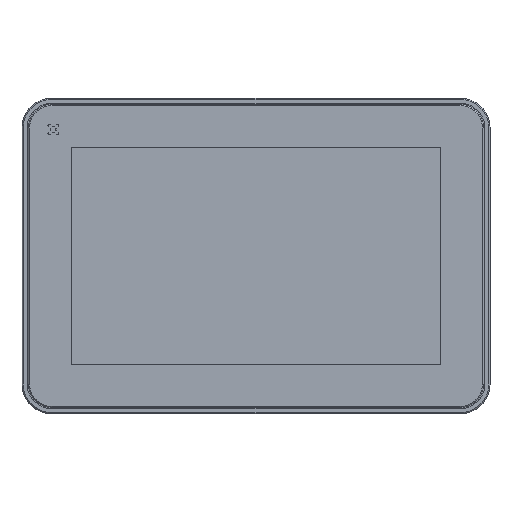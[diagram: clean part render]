
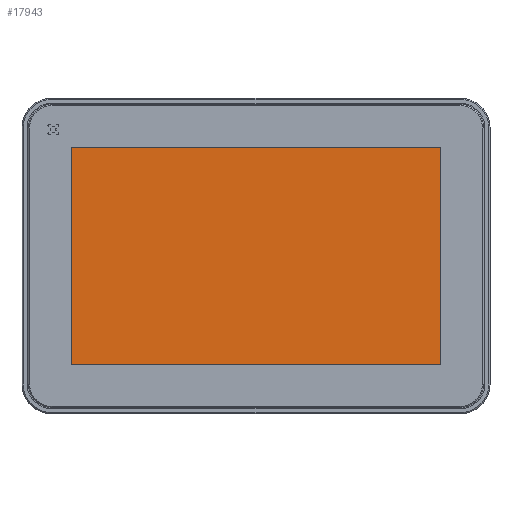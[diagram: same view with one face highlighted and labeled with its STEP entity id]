
A CAD part, top view. The second image highlights one B-rep face of the part: STEP entity #17943.
In plain terms, the highlighted planar face has unit normal (0, 0, 1).
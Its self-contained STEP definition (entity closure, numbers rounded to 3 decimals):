
#3607 = CARTESIAN_POINT ( 'NONE',  ( 77.15, -45.35, 46.019 ) ) ;
#4869 = VECTOR ( 'NONE', #33658, 1000. ) ;
#8031 = CARTESIAN_POINT ( 'NONE',  ( 77.15, 45.35, 46.019 ) ) ;
#10806 = CARTESIAN_POINT ( 'NONE',  ( -77.15, -45.35, 46.019 ) ) ;
#17943 = ADVANCED_FACE ( 'NONE', ( #37286 ), #57015, .T. ) ;
#17975 = DIRECTION ( 'NONE',  ( 1., 0., 0. ) ) ;
#22118 = CARTESIAN_POINT ( 'NONE',  ( -77.15, -45.35, 46.019 ) ) ;
#27154 = EDGE_LOOP ( 'NONE', ( #47123, #54136, #81650, #34890 ) ) ;
#27678 = VERTEX_POINT ( 'NONE', #52449 ) ;
#29742 = AXIS2_PLACEMENT_3D ( 'NONE', #57422, #44004, #17975 ) ;
#31363 = DIRECTION ( 'NONE',  ( 1., 0., 0. ) ) ;
#31763 = EDGE_CURVE ( 'NONE', #27678, #55866, #31852, .T. ) ;
#31852 = LINE ( 'NONE', #75964, #83027 ) ;
#33658 = DIRECTION ( 'NONE',  ( 0., 1., 0. ) ) ;
#34890 = ORIENTED_EDGE ( 'NONE', *, *, #53173, .T. ) ;
#36963 = VECTOR ( 'NONE', #31363, 1000. ) ;
#37286 = FACE_OUTER_BOUND ( 'NONE', #27154, .T. ) ;
#41638 = EDGE_CURVE ( 'NONE', #55866, #49152, #62451, .T. ) ;
#44004 = DIRECTION ( 'NONE',  ( 0., 0., 1. ) ) ;
#44873 = DIRECTION ( 'NONE',  ( 0., -1., 0. ) ) ;
#47123 = ORIENTED_EDGE ( 'NONE', *, *, #31763, .T. ) ;
#47718 = VECTOR ( 'NONE', #62447, 1000. ) ;
#49152 = VERTEX_POINT ( 'NONE', #3607 ) ;
#51841 = VERTEX_POINT ( 'NONE', #55712 ) ;
#52449 = CARTESIAN_POINT ( 'NONE',  ( -77.15, 45.35, 46.019 ) ) ;
#53173 = EDGE_CURVE ( 'NONE', #51841, #27678, #62854, .T. ) ;
#54136 = ORIENTED_EDGE ( 'NONE', *, *, #41638, .T. ) ;
#55712 = CARTESIAN_POINT ( 'NONE',  ( 77.15, 45.35, 46.019 ) ) ;
#55866 = VERTEX_POINT ( 'NONE', #22118 ) ;
#57015 = PLANE ( 'NONE',  #29742 ) ;
#57422 = CARTESIAN_POINT ( 'NONE',  ( -77.15, -45.35, 46.019 ) ) ;
#62447 = DIRECTION ( 'NONE',  ( -1., 0., 0. ) ) ;
#62451 = LINE ( 'NONE', #10806, #36963 ) ;
#62854 = LINE ( 'NONE', #81344, #47718 ) ;
#72280 = LINE ( 'NONE', #8031, #4869 ) ;
#75964 = CARTESIAN_POINT ( 'NONE',  ( -77.15, 45.35, 46.019 ) ) ;
#77915 = EDGE_CURVE ( 'NONE', #49152, #51841, #72280, .T. ) ;
#81344 = CARTESIAN_POINT ( 'NONE',  ( -77.15, 45.35, 46.019 ) ) ;
#81650 = ORIENTED_EDGE ( 'NONE', *, *, #77915, .T. ) ;
#83027 = VECTOR ( 'NONE', #44873, 1000. ) ;
